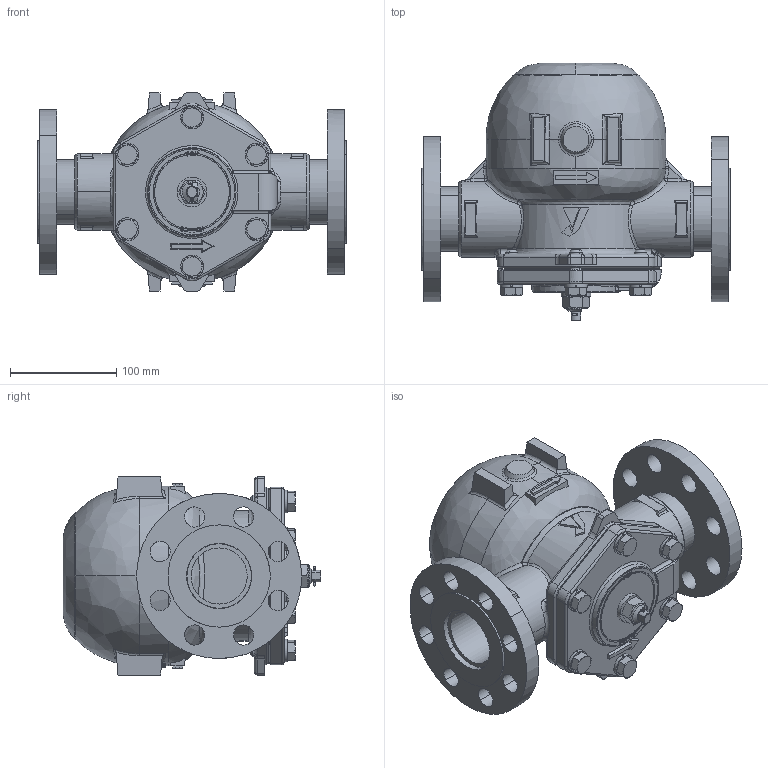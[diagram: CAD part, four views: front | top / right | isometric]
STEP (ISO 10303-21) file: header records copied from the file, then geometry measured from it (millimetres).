
FILE_DESCRIPTION( (''), '2;1');
FILE_NAME ('PC1027.12188.TSF-11SF JIS20KRF 50A_3343.stp','2025-07-31T10:56:54',(''),(''),'spGate 20.6.3 (****-****-****-****)','','');
FILE_SCHEMA (('AUTOMOTIVE_DESIGN'));
Length unit declared in the file: millimetre
Products named in the file (13): Assembly; CP_SUS_Q_Q''_SUS304TP 50AxSch40x280_5126; SOP 20K 50A; _{__50A ____; 3D_@TSF-10_@_____s__; 3D_@TSF-10_@_Z_p_i_b_g; 3D_@TSF-10_@_J___[; 3D_@TSF-11_@________; ____; _R_b_N____; CP_''_JIS B 1180 _____a_Z_p_{___g''_17168; SSLW12; ________
Assembly tree (23 placements, depth 2):
  Assembly
    CP_SUS_Q_Q''_SUS304TP 50AxSch40x280_5126
    SOP 20K 50A  x2
    _{__50A ____
    3D_@TSF-10_@_____s__
    3D_@TSF-10_@_Z_p_i_b_g
    3D_@TSF-10_@_J___[
    3D_@TSF-11_@________
    ____
    _R_b_N____
    CP_''_JIS B 1180 _____a_Z_p_{___g''_17168  x6
    SSLW12  x6
    ________
Bounding box: 290 x 242 x 186 mm (x, y, z)
Volume: 4505887.8 mm3; surface area: 454645.8 mm2
Topology: 23 solids, 23 shells, 971 faces, 3344 edges, 2436 vertices
Faces by surface type: plane 414, bspline 302, cylinder 255
Entity records: 60214 total; most frequent: CARTESIAN_POINT 22292, ORIENTED_EDGE 5204, COLOUR_RGB 3410, PRESENTATION_STYLE_ASSIGNMENT 3410, STYLED_ITEM 3410, EDGE_CURVE 2602, DRAUGHTING_PRE_DEFINED_CURVE_FONT 2602, CURVE_STYLE 2602
